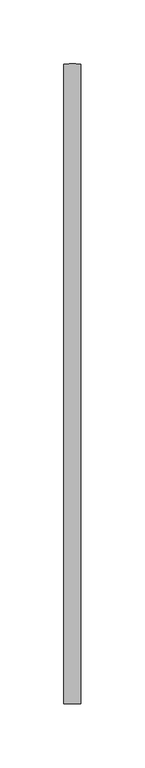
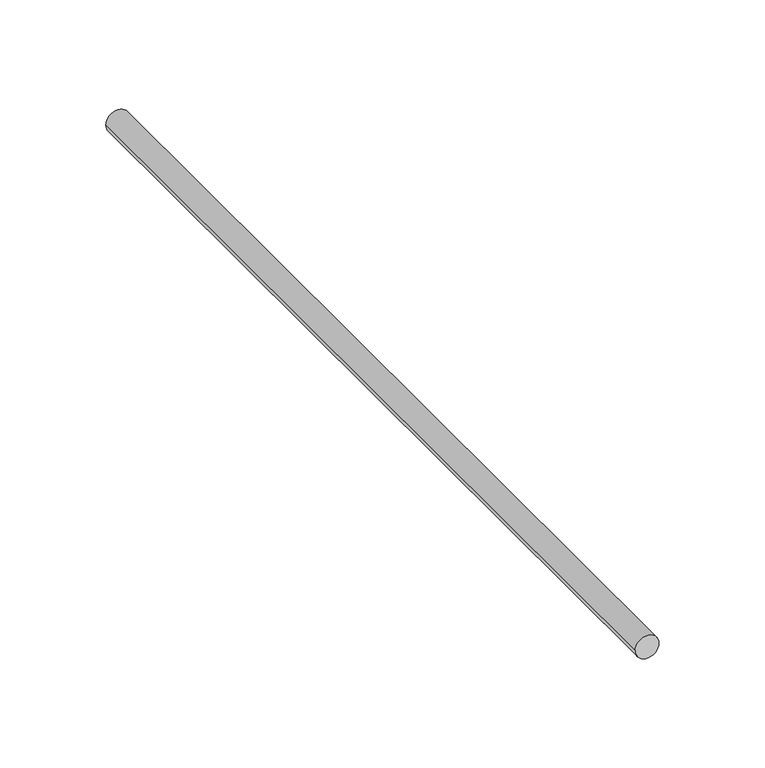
"""IFC4 building model written with IfcOpenShell, lengths in millimetres: proxy geometry, LFLO-MEXX-051."""

from ifc_helpers import new_model, si_unit, point, frame, origin, origin_2d, place, context, project, spatial, circle_curve, trimmed, segment, composite_curve, outline, extrude, source, transform, mapped, element, save


def generic_models_f0d82e63(model_context):
    return source(origin(), model_context, "Body", "SweptSolid", [
        extrude(outline(composite_curve([segment(trimmed(circle_curve(origin_2d(), 6.5), [point((0.0, 6.5))], [point((0.0, -6.5))], False, "CARTESIAN"), True, "CONTINUOUS"), segment(trimmed(circle_curve(origin_2d(), 6.5), [point((0.0, -6.5))], [point((0.0, 6.5))], False, "CARTESIAN"), True, "CONTINUOUS")], self_intersect=False)), frame((0.0, 0.0, 0.0), z_axis=(0.0, 1.0, 0.0), x_axis=(0.0, 0.0, 1.0)), (0.0, 0.0, 1.0), 500.0),
    ])


if __name__ == "__main__":
    model = new_model("IFC4")
    model_context = context("Model", 3, world=origin())
    ifc_project = project(units=[si_unit("LENGTHUNIT", "METRE", prefix="MILLI")], contexts=[model_context])
    site = spatial("IfcSite", under=ifc_project)
    building = spatial("IfcBuilding", under=site)
    placement = place(None, origin())
    generic_models_shape = generic_models_f0d82e63(model_context)
    element("IfcBuildingElementProxy", 1, Name="LFLO-MEXX-051", ObjectType="LFLO-MEXX-051", at=placement, inside=building, context=model_context, shape_type="MappedRepresentation", body=[
        mapped(generic_models_shape, transform((0.0, 0.0, 0.0), x_axis=(1.0, 0.0, 0.0), y_axis=(0.0, 1.0, 0.0), z_axis=(0.0, 0.0, 1.0))),
    ])
    save(model, "model.ifc")
